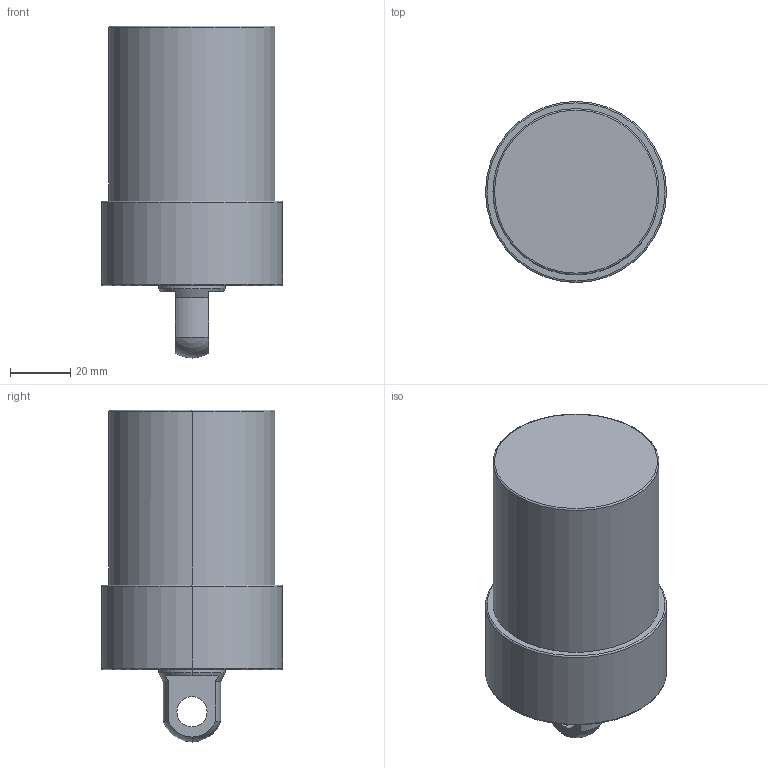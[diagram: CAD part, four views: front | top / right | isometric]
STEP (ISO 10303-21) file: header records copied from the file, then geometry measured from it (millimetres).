
FILE_DESCRIPTION (( 'STEP AP203' ), '1' );
FILE_NAME ('CLLU055-CP-045.STEP', '2017-05-12T10:46:19', ( '' ), ( '' ), 'SwSTEP 2.0', 'SolidWorks 2015', '' );
FILE_SCHEMA (( 'CONFIG_CONTROL_DESIGN' ));
Length unit declared in the file: millimetre
Products named in the file (1): CLLU055-CP-045
Bounding box: 60 x 60 x 110 mm (x, y, z)
Volume: 219195.5 mm3; surface area: 23275.4 mm2
Topology: 1 solids, 1 shells, 57 faces, 130 edges, 75 vertices
Faces by surface type: cylinder 22, cone 18, plane 9, torus 6, sphere 2
Entity records: 1643 total; most frequent: DIRECTION 308, CARTESIAN_POINT 267, ORIENTED_EDGE 244, AXIS2_PLACEMENT_3D 132, EDGE_CURVE 122, VERTEX_POINT 75, CIRCLE 74, EDGE_LOOP 67
